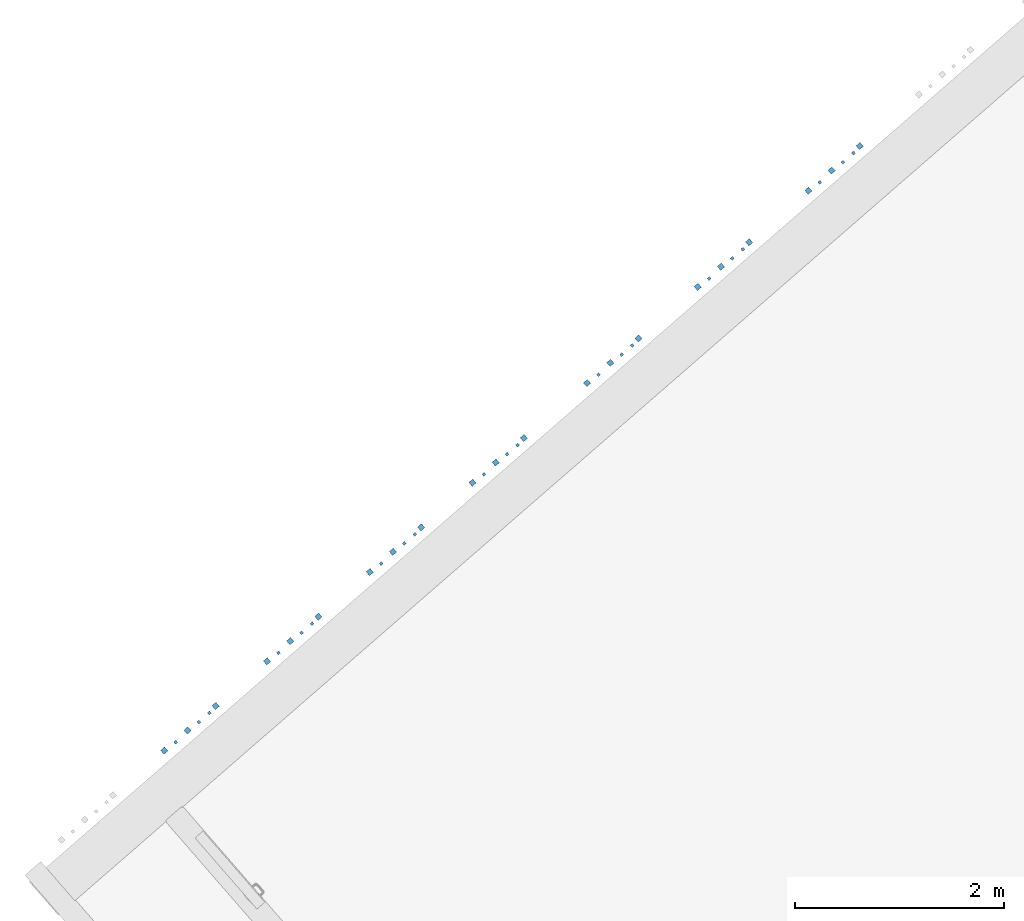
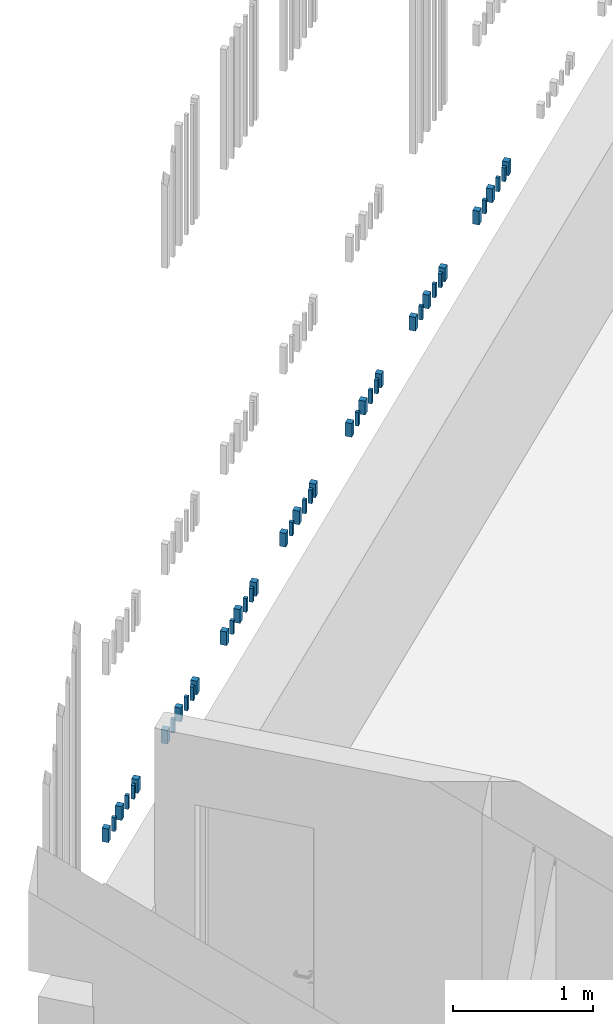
# One storey, part 2 of 124: 42 walls.
"""IFC2X3 building model written with IfcOpenShell, lengths in millimetres."""

from ifc_helpers import new_model, entity, si_unit, converted_unit, derived_unit, money_unit, direction, frame, origin_with_axes, origin_2d_with_axis, place, context, subcontext, project, spatial, rectangle, extrude, material, type_object, element, save


model = new_model("IFC2X3")

# Units and contexts
model_context = context("Model", 3, precision=1e-05, world=origin_with_axes(), true_north=direction((0.0, 1.0)))
body_context = subcontext(model_context, "Body", "Model", "MODEL_VIEW")
ifc_project = project(units=[si_unit("LENGTHUNIT", "METRE", prefix="MILLI"), si_unit("AREAUNIT", "SQUARE_METRE"), si_unit("VOLUMEUNIT", "CUBIC_METRE"), converted_unit("PLANEANGLEUNIT", "DEGREE", entity("IfcPlaneAngleMeasure", 0.0174532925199), si_unit("PLANEANGLEUNIT", "RADIAN"), dimensions=[0, 0, 0, 0, 0, 0, 0]), si_unit("SOLIDANGLEUNIT", "STERADIAN"), money_unit("EUR"), converted_unit("TIMEUNIT", "Year", entity("IfcTimeMeasure", 31556926.0), si_unit("TIMEUNIT", "SECOND"), dimensions=[0, 0, 1, 0, 0, 0, 0]), si_unit("MASSUNIT", "GRAM", prefix="KILO"), si_unit("THERMODYNAMICTEMPERATUREUNIT", "DEGREE_CELSIUS"), si_unit("LUMINOUSINTENSITYUNIT", "LUMEN"), si_unit("ENERGYUNIT", "JOULE", prefix="MEGA"), derived_unit("THERMALCONDUCTANCEUNIT", [(si_unit("POWERUNIT", "WATT"), 1), (si_unit("LENGTHUNIT", "METRE"), -1), (si_unit("THERMODYNAMICTEMPERATUREUNIT", "KELVIN"), -1)]), derived_unit("SPECIFICHEATCAPACITYUNIT", [(si_unit("ENERGYUNIT", "JOULE"), 1), (si_unit("MASSUNIT", "GRAM", prefix="KILO"), -1), (si_unit("THERMODYNAMICTEMPERATUREUNIT", "KELVIN"), -1)]), derived_unit("MASSDENSITYUNIT", [(si_unit("MASSUNIT", "GRAM", prefix="KILO"), 1), (si_unit("VOLUMEUNIT", "CUBIC_METRE"), -1)])], contexts=[model_context])

# Site, building, storey
site_placement = place(None, origin_with_axes())
site = spatial("IfcSite", under=ifc_project, at=site_placement, Name="Site", CompositionType="ELEMENT")
building_placement = place(site_placement, origin_with_axes())
building = spatial("IfcBuilding", under=site, at=building_placement, Name="Building", CompositionType="ELEMENT")
storey_placement = place(building_placement, frame((0.0, 0.0, -1615.0), z_axis=(0.0, 0.0, 1.0), x_axis=(1.0, 0.0, 0.0)))
storey = spatial("IfcBuildingStorey", under=building, at=storey_placement, Name="0  korrus", CompositionType="ELEMENT", Elevation=-1615.0)

# Walls
ifc_material = material(Name="Site specified")
wall_type = type_object("IfcWallType", Name="Puitfassaadi ribistik", PredefinedType="NOTDEFINED")
wall_1_placement = place(storey_placement, frame((144658.306793, 95785.9633982, 1615.0), z_axis=(0.0, 0.0, 1.0), x_axis=(0.754709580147, 0.656059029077, 0.0)))
element("IfcWall", 1, at=wall_1_placement, inside=storey, type_object=wall_type, material=ifc_material, Name="Site specified", context=body_context, shape_type="SweptSolid", body=[
    extrude(rectangle(XDim=50.0, YDim=50.0, at=origin_2d_with_axis()), frame((0.0, 0.0, 0.0), z_axis=(0.0, 0.0, -1.0), x_axis=(-1.0, 0.0, 0.0)), (0.0, 0.0, -1.0), 120.0),
])
wall_2_placement = place(storey_placement, frame((144767.411115, 95866.2311957, 1615.0), z_axis=(0.0, 0.0, 1.0), x_axis=(0.754709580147, 0.656059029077, 0.0)))
element("IfcWall", 2, at=wall_2_placement, inside=storey, type_object=wall_type, material=ifc_material, Name="Site specified", context=body_context, shape_type="SweptSolid", body=[
    extrude(rectangle(XDim=28.0, YDim=28.0, at=origin_2d_with_axis()), frame((0.0, 0.0, 0.0), z_axis=(0.0, 0.0, -1.0), x_axis=(-1.0, 0.0, 0.0)), (0.0, 0.0, -1.0), 120.0),
])
wall_3_placement = place(storey_placement, frame((138507.423715, 90439.0823112, 1615.0), z_axis=(0.0, 0.0, 1.0), x_axis=(0.754709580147, 0.656059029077, 0.0)))
element("IfcWall", 3, at=wall_3_placement, inside=storey, type_object=wall_type, material=ifc_material, Name="Site specified", context=body_context, shape_type="SweptSolid", body=[
    extrude(rectangle(XDim=50.0, YDim=50.0, at=origin_2d_with_axis()), frame((0.0, 0.0, 0.0), z_axis=(0.0, 0.0, -1.0), x_axis=(-1.0, 0.0, 0.0)), (0.0, 0.0, -1.0), 120.0),
])
wall_4_placement = place(storey_placement, frame((138616.528037, 90519.3501086, 1615.0), z_axis=(0.0, 0.0, 1.0), x_axis=(0.754709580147, 0.656059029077, 0.0)))
element("IfcWall", 4, at=wall_4_placement, inside=storey, type_object=wall_type, material=ifc_material, Name="Site specified", context=body_context, shape_type="SweptSolid", body=[
    extrude(rectangle(XDim=28.0, YDim=28.0, at=origin_2d_with_axis()), frame((0.0, 0.0, 0.0), z_axis=(0.0, 0.0, -1.0), x_axis=(-1.0, 0.0, 0.0)), (0.0, 0.0, -1.0), 120.0),
])
wall_5_placement = place(storey_placement, frame((138729.30833, 90631.9636643, 1615.0), z_axis=(0.0, 0.0, 1.0), x_axis=(0.754709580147, 0.656059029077, 0.0)))
element("IfcWall", 5, at=wall_5_placement, inside=storey, type_object=wall_type, material=ifc_material, Name="Site specified", context=body_context, shape_type="SweptSolid", body=[
    extrude(rectangle(XDim=50.0, YDim=50.0, at=origin_2d_with_axis()), frame((0.0, 0.0, 0.0), z_axis=(0.0, 0.0, -1.0), x_axis=(-1.0, 0.0, 0.0)), (0.0, 0.0, -1.0), 120.0),
])
for number, where, z_axis, x_axis, name in (
    (6, (138938.034296, 90798.8312355, 1615.0), (0.0, 0.0, 1.0), (0.754709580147, 0.656059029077, 0.0), "Site specified"),
    (7, (138837.657922, 90711.5753852, 1615.0), (0.0, 0.0, 1.0), (0.754709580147, 0.656059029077, 0.0), "Site specified"),
):
    element("IfcWall", number, at=place(storey_placement, frame(where, z_axis=z_axis, x_axis=x_axis)), inside=storey, type_object=wall_type, material=ifc_material, Name=name, context=body_context, shape_type="SweptSolid", body=[
        extrude(rectangle(XDim=28.0, YDim=28.0, at=origin_2d_with_axis()), frame((0.0, 0.0, 0.0), z_axis=(0.0, 0.0, -1.0), x_axis=(-1.0, 0.0, 0.0)), (0.0, 0.0, -1.0), 120.0),
    ])
for number, where, z_axis, x_axis, name in (
    (8, (138997.989192, 90865.5243744, 1615.0), (0.0, 0.0, 1.0), (0.754709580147, 0.656059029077, 0.0), "Site specified"),
    (9, (140469.668623, 92144.8357868, 1615.0), (0.0, 0.0, 1.0), (0.754709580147, 0.656059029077, 0.0), "Site specified"),
):
    element("IfcWall", number, at=place(storey_placement, frame(where, z_axis=z_axis, x_axis=x_axis)), inside=storey, type_object=wall_type, material=ifc_material, Name=name, context=body_context, shape_type="SweptSolid", body=[
        extrude(rectangle(XDim=50.0, YDim=50.0, at=origin_2d_with_axis()), frame((0.0, 0.0, 0.0), z_axis=(0.0, 0.0, -1.0), x_axis=(-1.0, 0.0, 0.0)), (0.0, 0.0, -1.0), 120.0),
    ])
for number, where, z_axis, x_axis, name in (
    (10, (140578.772946, 92225.1035843, 1615.0), (0.0, 0.0, 1.0), (0.754709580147, 0.656059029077, 0.0), "Site specified"),
    (11, (140900.279204, 92504.5847111, 1615.0), (0.0, 0.0, 1.0), (0.754709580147, 0.656059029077, 0.0), "Site specified"),
):
    element("IfcWall", number, at=place(storey_placement, frame(where, z_axis=z_axis, x_axis=x_axis)), inside=storey, type_object=wall_type, material=ifc_material, Name=name, context=body_context, shape_type="SweptSolid", body=[
        extrude(rectangle(XDim=28.0, YDim=28.0, at=origin_2d_with_axis()), frame((0.0, 0.0, 0.0), z_axis=(0.0, 0.0, -1.0), x_axis=(-1.0, 0.0, 0.0)), (0.0, 0.0, -1.0), 120.0),
    ])
wall_6_placement = place(storey_placement, frame((140691.553238, 92337.7171399, 1615.0), z_axis=(0.0, 0.0, 1.0), x_axis=(0.754709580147, 0.656059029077, 0.0)))
element("IfcWall", 12, at=wall_6_placement, inside=storey, type_object=wall_type, material=ifc_material, Name="Site specified", context=body_context, shape_type="SweptSolid", body=[
    extrude(rectangle(XDim=50.0, YDim=50.0, at=origin_2d_with_axis()), frame((0.0, 0.0, 0.0), z_axis=(0.0, 0.0, -1.0), x_axis=(-1.0, 0.0, 0.0)), (0.0, 0.0, -1.0), 120.0),
])
wall_7_placement = place(storey_placement, frame((140799.902831, 92417.3288608, 1615.0), z_axis=(0.0, 0.0, 1.0), x_axis=(0.754709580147, 0.656059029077, 0.0)))
element("IfcWall", 13, at=wall_7_placement, inside=storey, type_object=wall_type, material=ifc_material, Name="Site specified", context=body_context, shape_type="SweptSolid", body=[
    extrude(rectangle(XDim=28.0, YDim=28.0, at=origin_2d_with_axis()), frame((0.0, 0.0, 0.0), z_axis=(0.0, 0.0, -1.0), x_axis=(-1.0, 0.0, 0.0)), (0.0, 0.0, -1.0), 120.0),
])
wall_8_placement = place(storey_placement, frame((140960.2341, 92571.2778501, 1615.0), z_axis=(0.0, 0.0, 1.0), x_axis=(0.754709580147, 0.656059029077, 0.0)))
element("IfcWall", 14, at=wall_8_placement, inside=storey, type_object=wall_type, material=ifc_material, Name="Site specified", context=body_context, shape_type="SweptSolid", body=[
    extrude(rectangle(XDim=50.0, YDim=50.0, at=origin_2d_with_axis()), frame((0.0, 0.0, 0.0), z_axis=(0.0, 0.0, -1.0), x_axis=(-1.0, 0.0, 0.0)), (0.0, 0.0, -1.0), 120.0),
])
wall_9_placement = place(storey_placement, frame((139818.780374, 91564.4521205, 1615.0), z_axis=(0.0, 0.0, 1.0), x_axis=(0.754709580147, 0.656059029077, 0.0)))
element("IfcWall", 15, at=wall_9_placement, inside=storey, type_object=wall_type, material=ifc_material, Name="Site specified", context=body_context, shape_type="SweptSolid", body=[
    extrude(rectangle(XDim=28.0, YDim=28.0, at=origin_2d_with_axis()), frame((0.0, 0.0, 0.0), z_axis=(0.0, 0.0, -1.0), x_axis=(-1.0, 0.0, 0.0)), (0.0, 0.0, -1.0), 120.0),
])
for number, where, z_axis, x_axis, name in (
    (16, (139710.430781, 91484.8403996, 1615.0), (0.0, 0.0, 1.0), (0.754709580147, 0.656059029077, 0.0), "Site specified"),
    (17, (139979.111643, 91718.4011098, 1615.0), (0.0, 0.0, 1.0), (0.754709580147, 0.656059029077, 0.0), "Site specified"),
):
    element("IfcWall", number, at=place(storey_placement, frame(where, z_axis=z_axis, x_axis=x_axis)), inside=storey, type_object=wall_type, material=ifc_material, Name=name, context=body_context, shape_type="SweptSolid", body=[
        extrude(rectangle(XDim=50.0, YDim=50.0, at=origin_2d_with_axis()), frame((0.0, 0.0, 0.0), z_axis=(0.0, 0.0, -1.0), x_axis=(-1.0, 0.0, 0.0)), (0.0, 0.0, -1.0), 120.0),
    ])
for number, where, z_axis, x_axis, name in (
    (18, (139919.156747, 91651.7079708, 1615.0), (0.0, 0.0, 1.0), (0.754709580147, 0.656059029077, 0.0), "Site specified"),
    (19, (139597.650489, 91372.2268439, 1615.0), (0.0, 0.0, 1.0), (0.754709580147, 0.656059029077, 0.0), "Site specified"),
):
    element("IfcWall", number, at=place(storey_placement, frame(where, z_axis=z_axis, x_axis=x_axis)), inside=storey, type_object=wall_type, material=ifc_material, Name=name, context=body_context, shape_type="SweptSolid", body=[
        extrude(rectangle(XDim=28.0, YDim=28.0, at=origin_2d_with_axis()), frame((0.0, 0.0, 0.0), z_axis=(0.0, 0.0, -1.0), x_axis=(-1.0, 0.0, 0.0)), (0.0, 0.0, -1.0), 120.0),
    ])
for number, where, z_axis, x_axis, name in (
    (20, (139488.546166, 91291.9590465, 1615.0), (0.0, 0.0, 1.0), (0.754709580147, 0.656059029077, 0.0), "Site specified"),
    (21, (141450.790832, 92997.7123114, 1615.0), (0.0, 0.0, 1.0), (0.754709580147, 0.656059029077, 0.0), "Site specified"),
):
    element("IfcWall", number, at=place(storey_placement, frame(where, z_axis=z_axis, x_axis=x_axis)), inside=storey, type_object=wall_type, material=ifc_material, Name=name, context=body_context, shape_type="SweptSolid", body=[
        extrude(rectangle(XDim=50.0, YDim=50.0, at=origin_2d_with_axis()), frame((0.0, 0.0, 0.0), z_axis=(0.0, 0.0, -1.0), x_axis=(-1.0, 0.0, 0.0)), (0.0, 0.0, -1.0), 120.0),
    ])
for number, where, z_axis, x_axis, name in (
    (22, (141559.895155, 93077.9801088, 1615.0), (0.0, 0.0, 1.0), (0.754709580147, 0.656059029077, 0.0), "Site specified"),
    (23, (141881.401413, 93357.4612357, 1615.0), (0.0, 0.0, 1.0), (0.754709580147, 0.656059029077, 0.0), "Site specified"),
    (24, (141781.02504, 93270.2053854, 1615.0), (0.0, 0.0, 1.0), (0.754709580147, 0.656059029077, 0.0), "Site specified"),
):
    element("IfcWall", number, at=place(storey_placement, frame(where, z_axis=z_axis, x_axis=x_axis)), inside=storey, type_object=wall_type, material=ifc_material, Name=name, context=body_context, shape_type="SweptSolid", body=[
        extrude(rectangle(XDim=28.0, YDim=28.0, at=origin_2d_with_axis()), frame((0.0, 0.0, 0.0), z_axis=(0.0, 0.0, -1.0), x_axis=(-1.0, 0.0, 0.0)), (0.0, 0.0, -1.0), 120.0),
    ])
for number, where, z_axis, x_axis, name in (
    (25, (141941.356309, 93424.1543746, 1615.0), (0.0, 0.0, 1.0), (0.754709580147, 0.656059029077, 0.0), "Site specified"),
    (26, (141672.675447, 93190.5936645, 1615.0), (0.0, 0.0, 1.0), (0.754709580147, 0.656059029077, 0.0), "Site specified"),
    (27, (143035.685446, 94375.4401801, 1615.0), (0.0, 0.0, 1.0), (0.754709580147, 0.656059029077, 0.0), "Site specified"),
    (28, (142545.119969, 93948.9981168, 1615.0), (0.0, 0.0, 1.0), (0.754709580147, 0.656059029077, 0.0), "Site specified"),
):
    element("IfcWall", number, at=place(storey_placement, frame(where, z_axis=z_axis, x_axis=x_axis)), inside=storey, type_object=wall_type, material=ifc_material, Name=name, context=body_context, shape_type="SweptSolid", body=[
        extrude(rectangle(XDim=50.0, YDim=50.0, at=origin_2d_with_axis()), frame((0.0, 0.0, 0.0), z_axis=(0.0, 0.0, -1.0), x_axis=(-1.0, 0.0, 0.0)), (0.0, 0.0, -1.0), 120.0),
    ])
for number, where, z_axis, x_axis, name in (
    (29, (142654.224291, 94029.2659142, 1615.0), (0.0, 0.0, 1.0), (0.754709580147, 0.656059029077, 0.0), "Site specified"),
    (30, (142975.73055, 94308.7470411, 1615.0), (0.0, 0.0, 1.0), (0.754709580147, 0.656059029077, 0.0), "Site specified"),
    (31, (142875.354176, 94221.4911908, 1615.0), (0.0, 0.0, 1.0), (0.754709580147, 0.656059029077, 0.0), "Site specified"),
):
    element("IfcWall", number, at=place(storey_placement, frame(where, z_axis=z_axis, x_axis=x_axis)), inside=storey, type_object=wall_type, material=ifc_material, Name=name, context=body_context, shape_type="SweptSolid", body=[
        extrude(rectangle(XDim=28.0, YDim=28.0, at=origin_2d_with_axis()), frame((0.0, 0.0, 0.0), z_axis=(0.0, 0.0, -1.0), x_axis=(-1.0, 0.0, 0.0)), (0.0, 0.0, -1.0), 120.0),
    ])
wall_10_placement = place(storey_placement, frame((142767.004584, 94141.8794699, 1615.0), z_axis=(0.0, 0.0, 1.0), x_axis=(0.754709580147, 0.656059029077, 0.0)))
element("IfcWall", 32, at=wall_10_placement, inside=storey, type_object=wall_type, material=ifc_material, Name="Site specified", context=body_context, shape_type="SweptSolid", body=[
    extrude(rectangle(XDim=50.0, YDim=50.0, at=origin_2d_with_axis()), frame((0.0, 0.0, 0.0), z_axis=(0.0, 0.0, -1.0), x_axis=(-1.0, 0.0, 0.0)), (0.0, 0.0, -1.0), 120.0),
])
wall_11_placement = place(storey_placement, frame((143710.817949, 94947.7487682, 1615.0), z_axis=(0.0, 0.0, 1.0), x_axis=(0.754709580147, 0.656059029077, 0.0)))
element("IfcWall", 33, at=wall_11_placement, inside=storey, type_object=wall_type, material=ifc_material, Name="Site specified", context=body_context, shape_type="SweptSolid", body=[
    extrude(rectangle(XDim=28.0, YDim=28.0, at=origin_2d_with_axis()), frame((0.0, 0.0, 0.0), z_axis=(0.0, 0.0, -1.0), x_axis=(-1.0, 0.0, 0.0)), (0.0, 0.0, -1.0), 120.0),
])
wall_12_placement = place(storey_placement, frame((143601.713626, 94867.4809707, 1615.0), z_axis=(0.0, 0.0, 1.0), x_axis=(0.754709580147, 0.656059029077, 0.0)))
element("IfcWall", 34, at=wall_12_placement, inside=storey, type_object=wall_type, material=ifc_material, Name="Site specified", context=body_context, shape_type="SweptSolid", body=[
    extrude(rectangle(XDim=50.0, YDim=50.0, at=origin_2d_with_axis()), frame((0.0, 0.0, 0.0), z_axis=(0.0, 0.0, -1.0), x_axis=(-1.0, 0.0, 0.0)), (0.0, 0.0, -1.0), 120.0),
])
for number, where, z_axis, x_axis, name in (
    (35, (144032.324207, 95227.229895, 1615.0), (0.0, 0.0, 1.0), (0.754709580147, 0.656059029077, 0.0), "Site specified"),
    (36, (143931.947834, 95139.9740447, 1615.0), (0.0, 0.0, 1.0), (0.754709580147, 0.656059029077, 0.0), "Site specified"),
):
    element("IfcWall", number, at=place(storey_placement, frame(where, z_axis=z_axis, x_axis=x_axis)), inside=storey, type_object=wall_type, material=ifc_material, Name=name, context=body_context, shape_type="SweptSolid", body=[
        extrude(rectangle(XDim=28.0, YDim=28.0, at=origin_2d_with_axis()), frame((0.0, 0.0, 0.0), z_axis=(0.0, 0.0, -1.0), x_axis=(-1.0, 0.0, 0.0)), (0.0, 0.0, -1.0), 120.0),
    ])
for number, where, z_axis, x_axis, name in (
    (37, (144092.279103, 95293.923034, 1615.0), (0.0, 0.0, 1.0), (0.754709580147, 0.656059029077, 0.0), "Site specified"),
    (38, (143823.598241, 95060.3623239, 1615.0), (0.0, 0.0, 1.0), (0.754709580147, 0.656059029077, 0.0), "Site specified"),
):
    element("IfcWall", number, at=place(storey_placement, frame(where, z_axis=z_axis, x_axis=x_axis)), inside=storey, type_object=wall_type, material=ifc_material, Name=name, context=body_context, shape_type="SweptSolid", body=[
        extrude(rectangle(XDim=50.0, YDim=50.0, at=origin_2d_with_axis()), frame((0.0, 0.0, 0.0), z_axis=(0.0, 0.0, -1.0), x_axis=(-1.0, 0.0, 0.0)), (0.0, 0.0, -1.0), 120.0),
    ])
for number, where, z_axis, x_axis, name in (
    (39, (145088.917374, 96145.7123225, 1615.0), (0.0, 0.0, 1.0), (0.754709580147, 0.656059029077, 0.0), "Site specified"),
    (40, (144988.541001, 96058.4564722, 1615.0), (0.0, 0.0, 1.0), (0.754709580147, 0.656059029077, 0.0), "Site specified"),
):
    element("IfcWall", number, at=place(storey_placement, frame(where, z_axis=z_axis, x_axis=x_axis)), inside=storey, type_object=wall_type, material=ifc_material, Name=name, context=body_context, shape_type="SweptSolid", body=[
        extrude(rectangle(XDim=28.0, YDim=28.0, at=origin_2d_with_axis()), frame((0.0, 0.0, 0.0), z_axis=(0.0, 0.0, -1.0), x_axis=(-1.0, 0.0, 0.0)), (0.0, 0.0, -1.0), 120.0),
    ])
for number, where, z_axis, x_axis, name in (
    (41, (145148.87227, 96212.4054615, 1615.0), (0.0, 0.0, 1.0), (0.754709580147, 0.656059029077, 0.0), "Site specified"),
    (42, (144880.191408, 95978.8447513, 1615.0), (0.0, 0.0, 1.0), (0.754709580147, 0.656059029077, 0.0), "Site specified"),
):
    element("IfcWall", number, at=place(storey_placement, frame(where, z_axis=z_axis, x_axis=x_axis)), inside=storey, type_object=wall_type, material=ifc_material, Name=name, context=body_context, shape_type="SweptSolid", body=[
        extrude(rectangle(XDim=50.0, YDim=50.0, at=origin_2d_with_axis()), frame((0.0, 0.0, 0.0), z_axis=(0.0, 0.0, -1.0), x_axis=(-1.0, 0.0, 0.0)), (0.0, 0.0, -1.0), 120.0),
    ])

save(model, "model.ifc")
